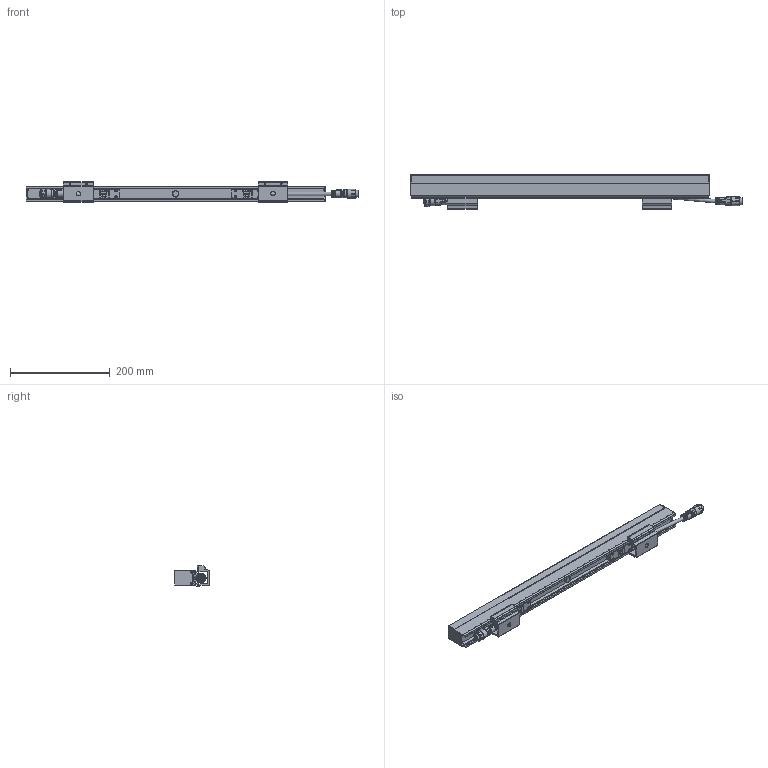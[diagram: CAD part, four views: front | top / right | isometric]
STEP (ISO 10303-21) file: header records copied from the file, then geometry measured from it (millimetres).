
FILE_DESCRIPTION (( 'STEP AP214' ), '1' );
FILE_NAME ('E series 2 Square L600.STEP', '2025-11-24T13:36:31', ( '' ), ( '' ), 'SwSTEP 2.0', 'SolidWorks 2025', '' );
FILE_SCHEMA (( 'AUTOMOTIVE_DESIGN' ));
Length unit declared in the file: millimetre
Products named in the file (12): Counter sunk screw torx_M3x16; M16 5p Male; Counter sunk screw torx_M2.5x16; E series 2 with dome cover body and bare config_Bare 600mm; D & E Series 2 breathing valve; E series 2 Square L600; E series 2 mounting clip bottom; E series 2 with square cover body_600mm; Part1^E series 2; E series 2 mounting clip top; Part2^E series 2; M16 5p Female
Assembly tree (27 placements, depth 2):
  E series 2 Square L600
    E series 2 with dome cover body and bare config_Bare 600mm
    Counter sunk screw torx_M2.5x16  x12
    E series 2 mounting clip bottom  x2
    E series 2 mounting clip top  x2
    Counter sunk screw torx_M3x16  x4
    E series 2 with square cover body_600mm
    M16 5p Female
    Part2^E series 2
    M16 5p Male
    Part1^E series 2
    D & E Series 2 breathing valve
Bounding box: 665.35 x 68.7 x 41.7 mm (x, y, z)
Volume: 766746.1 mm3; surface area: 178847 mm2
Topology: 29 solids, 32 shells, 1782 faces, 4436 edges, 2799 vertices
Faces by surface type: cylinder 741, plane 632, torus 135, bspline 130, cone 118, sphere 26
Full cylindrical faces by diameter (mm): 2.4 x2, 2.5 x12, 3 x4, 4.5 x12, 5.81 x4, 9.2 x1, 11.1 x1, 14.25 x1, 14.3 x1, 18 x1
Entity records: 61974 total; most frequent: CARTESIAN_POINT 20323, ORIENTED_EDGE 7026, DIRECTION 6615, EDGE_CURVE 3513, AXIS2_PLACEMENT_3D 2557, VERTEX_POINT 2225, EDGE_LOOP 1588, VECTOR 1501
